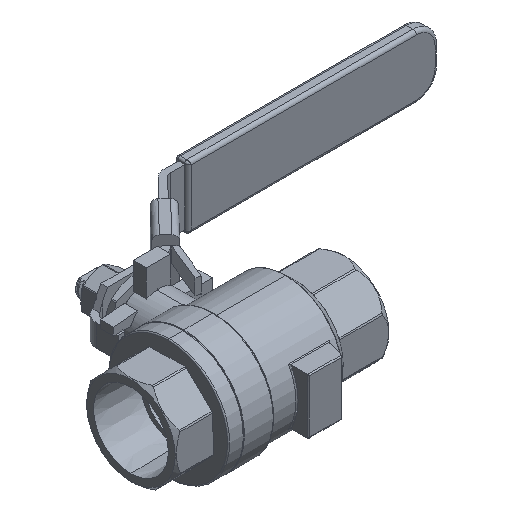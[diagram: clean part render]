
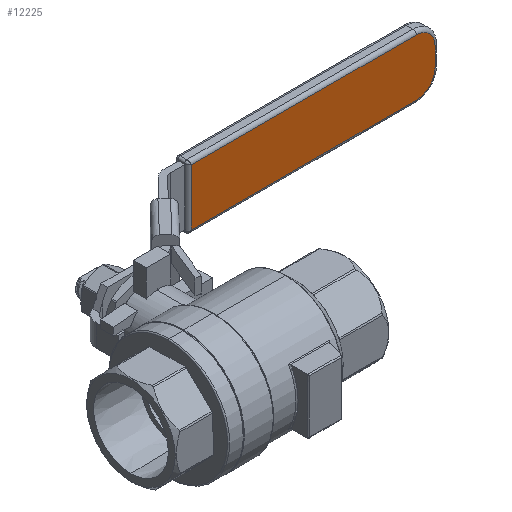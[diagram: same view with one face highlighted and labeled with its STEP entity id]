
A CAD part, isometric view. The second image highlights one B-rep face of the part: STEP entity #12225.
In plain terms, the highlighted planar face has unit normal (0, -1, 0).
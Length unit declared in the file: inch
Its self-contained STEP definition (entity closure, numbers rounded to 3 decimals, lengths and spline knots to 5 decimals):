
#76 = ORIENTED_EDGE ( 'NONE', *, *, #26727, .T. ) ;
#306 = CARTESIAN_POINT ( 'NONE',  ( 3.16, 1.54908, 0.085 ) ) ;
#626 = DIRECTION ( 'NONE',  ( 0., -1., 0. ) ) ;
#838 = AXIS2_PLACEMENT_3D ( 'NONE', #11103, #626, #19470 ) ;
#1432 = DIRECTION ( 'NONE',  ( -1., 0., 0. ) ) ;
#2147 = VECTOR ( 'NONE', #1432, 39.37008 ) ;
#2537 = CARTESIAN_POINT ( 'NONE',  ( 3.33, 1.54908, 0.085 ) ) ;
#3044 = ORIENTED_EDGE ( 'NONE', *, *, #14898, .T. ) ;
#3532 = LINE ( 'NONE', #16955, #2147 ) ;
#4343 = VERTEX_POINT ( 'NONE', #6085 ) ;
#4678 = EDGE_LOOP ( 'NONE', ( #4852, #3044, #76, #14113, #11355, #21205 ) ) ;
#4732 = LINE ( 'NONE', #22888, #26643 ) ;
#4852 = ORIENTED_EDGE ( 'NONE', *, *, #16947, .T. ) ;
#5204 = VECTOR ( 'NONE', #22754, 39.37008 ) ;
#5846 = CIRCLE ( 'NONE', #838, 0.17 ) ;
#6085 = CARTESIAN_POINT ( 'NONE',  ( 3.16, 1.54908, -0.255 ) ) ;
#6480 = CARTESIAN_POINT ( 'NONE',  ( 1.1297, 1.54908, 0.255 ) ) ;
#6655 = PLANE ( 'NONE',  #12458 ) ;
#6748 = EDGE_CURVE ( 'NONE', #33546, #12238, #3532, .T. ) ;
#7024 = EDGE_CURVE ( 'NONE', #12238, #11243, #4732, .T. ) ;
#10272 = DIRECTION ( 'NONE',  ( 0., -1., 0. ) ) ;
#11103 = CARTESIAN_POINT ( 'NONE',  ( 3.16, 1.54908, -0.085 ) ) ;
#11243 = VERTEX_POINT ( 'NONE', #30051 ) ;
#11355 = ORIENTED_EDGE ( 'NONE', *, *, #7024, .T. ) ;
#12225 = ADVANCED_FACE ( 'NONE', ( #23043 ), #6655, .F. ) ;
#12238 = VERTEX_POINT ( 'NONE', #6480 ) ;
#12437 = VERTEX_POINT ( 'NONE', #14315 ) ;
#12458 = AXIS2_PLACEMENT_3D ( 'NONE', #25134, #17286, #15003 ) ;
#12744 = DIRECTION ( 'NONE',  ( 0., 0., -1. ) ) ;
#12805 = CARTESIAN_POINT ( 'NONE',  ( 3.16, 1.54908, 0.255 ) ) ;
#12930 = CARTESIAN_POINT ( 'NONE',  ( 3.33, 1.54908, -0.085 ) ) ;
#14113 = ORIENTED_EDGE ( 'NONE', *, *, #6748, .T. ) ;
#14315 = CARTESIAN_POINT ( 'NONE',  ( 3.33, 1.54908, 0.085 ) ) ;
#14898 = EDGE_CURVE ( 'NONE', #32376, #12437, #20681, .T. ) ;
#15003 = DIRECTION ( 'NONE',  ( 0., 0., 1. ) ) ;
#16947 = EDGE_CURVE ( 'NONE', #4343, #32376, #5846, .T. ) ;
#16955 = CARTESIAN_POINT ( 'NONE',  ( 1.1197, 1.54908, 0.255 ) ) ;
#17286 = DIRECTION ( 'NONE',  ( 0., 1., 0. ) ) ;
#19470 = DIRECTION ( 'NONE',  ( 0., 0., 1. ) ) ;
#19964 = LINE ( 'NONE', #20463, #5204 ) ;
#20463 = CARTESIAN_POINT ( 'NONE',  ( 3.16, 1.54908, -0.255 ) ) ;
#20681 = LINE ( 'NONE', #2537, #28089 ) ;
#21205 = ORIENTED_EDGE ( 'NONE', *, *, #29640, .T. ) ;
#21415 = DIRECTION ( 'NONE',  ( 0., 0., 1. ) ) ;
#22754 = DIRECTION ( 'NONE',  ( 1., 0., 0. ) ) ;
#22888 = CARTESIAN_POINT ( 'NONE',  ( 1.1297, 1.54908, -0.265 ) ) ;
#23043 = FACE_OUTER_BOUND ( 'NONE', #4678, .T. ) ;
#25134 = CARTESIAN_POINT ( 'NONE',  ( 3.16, 1.54908, 0.085 ) ) ;
#26643 = VECTOR ( 'NONE', #12744, 39.37008 ) ;
#26727 = EDGE_CURVE ( 'NONE', #12437, #33546, #29662, .T. ) ;
#28089 = VECTOR ( 'NONE', #34096, 39.37008 ) ;
#29640 = EDGE_CURVE ( 'NONE', #11243, #4343, #19964, .T. ) ;
#29662 = CIRCLE ( 'NONE', #34116, 0.17 ) ;
#30051 = CARTESIAN_POINT ( 'NONE',  ( 1.1297, 1.54908, -0.255 ) ) ;
#32376 = VERTEX_POINT ( 'NONE', #12930 ) ;
#33546 = VERTEX_POINT ( 'NONE', #12805 ) ;
#34096 = DIRECTION ( 'NONE',  ( 0., 0., 1. ) ) ;
#34116 = AXIS2_PLACEMENT_3D ( 'NONE', #306, #10272, #21415 ) ;
